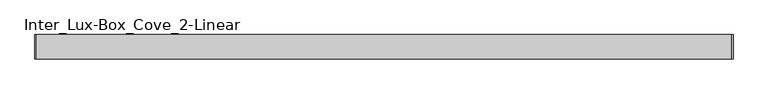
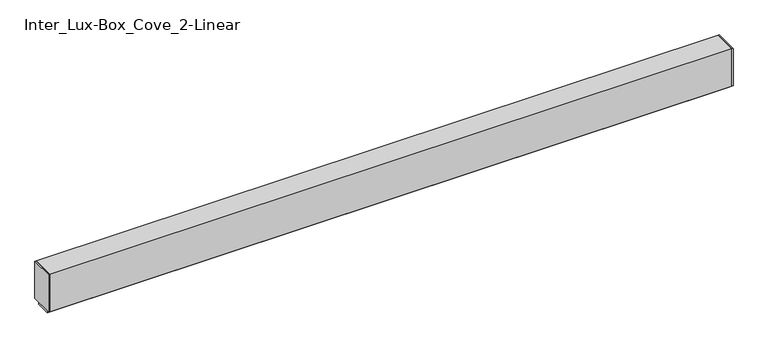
"""IFC4 building model written with IfcOpenShell, lengths in millimetres: light fixture geometry, Inter_Lux-Box_Cove_2-Linear : WG-BC2-72."""

import ifcopenshell
import ifcopenshell.guid

model = None  # the IFC model being written
_history = None  # IfcOwnerHistory: only IFC2X3 demands one
_inside = {}  # id of a spatial element -> (the spatial element, [elements in it])
_under = {}  # id of a project, library or spatial element -> (it, [spatial elements below it])
_declared = {}  # id of a project -> (the project, [libraries it declares])
_typed = {}  # id of a type object -> (the type object, [elements of that type])
_made_of = {}  # id of a material, layer set ... -> (it, [elements and type objects made of it])


def new_model(schema):
    """Start an empty IFC model of exactly this schema.

    Asked for "IFC4X3", IfcOpenShell would pick the latest addendum, in which some entities
    have other attributes; the version numbers below select the first issue.
    IFC2X3 requires an IfcOwnerHistory on every rooted entity: one is made here for all.
    """
    global model, _history
    if schema == "IFC4X3":
        model = ifcopenshell.file(schema_version=(4, 3, 0, 0))
    else:
        model = ifcopenshell.file(schema=schema)
    _inside.clear()
    _under.clear()
    _declared.clear()
    _typed.clear()
    _made_of.clear()
    _history = None
    if model.schema == "IFC2X3":
        org = make("IfcOrganization", Name="unknown")
        user = make(
            "IfcPersonAndOrganization",
            ThePerson=make("IfcPerson", FamilyName="unknown"),
            TheOrganization=org,
        )
        app = make(
            "IfcApplication",
            ApplicationDeveloper=org,
            Version="unknown",
            ApplicationFullName="unknown",
            ApplicationIdentifier="unknown",
        )
        _history = make(
            "IfcOwnerHistory",
            OwningUser=user,
            OwningApplication=app,
            ChangeAction="ADDED",
            CreationDate=0,
        )
    return model


def make(cls, **values):
    """One entity of the class cls with the attributes given. An attribute that is None is left unset."""
    return model.create_entity(
        cls, **{name: value for name, value in values.items() if value is not None}
    )


def rooted(cls, **values):
    """An entity with a GlobalId (a new one), such as an element, a storey or a relation."""
    return make(cls, GlobalId=ifcopenshell.guid.new(), OwnerHistory=_history, **values)


def si_unit(unit_type, name, prefix=None):
    """IfcSIUnit, for example si_unit("LENGTHUNIT", "METRE", prefix="MILLI")."""
    return make("IfcSIUnit", UnitType=unit_type, Prefix=prefix, Name=name)


def assignment(units):
    """IfcUnitAssignment: the units of a project."""
    return None if units is None else make("IfcUnitAssignment", Units=units)


def point(xyz):
    """IfcCartesianPoint."""
    return None if xyz is None else make("IfcCartesianPoint", Coordinates=xyz)


def direction(xyz):
    """IfcDirection."""
    return None if xyz is None else make("IfcDirection", DirectionRatios=xyz)


def frame(location, z_axis=None, x_axis=None):
    """IfcAxis2Placement3D, a coordinate frame: its origin and axes. An axis left out is left unset."""
    return make(
        "IfcAxis2Placement3D",
        Location=point(location),
        Axis=direction(z_axis),
        RefDirection=direction(x_axis),
    )


def origin():
    """The frame at (0, 0, 0) with its axes left unset."""
    return frame((0.0, 0.0, 0.0))


def origin_with_axes():
    """The frame at (0, 0, 0) with the z axis (0, 0, 1) and the x axis (1, 0, 0) written out."""
    return frame((0.0, 0.0, 0.0), z_axis=(0.0, 0.0, 1.0), x_axis=(1.0, 0.0, 0.0))


def place(relative_to, where):
    """IfcLocalPlacement: puts the frame where relative to a parent placement (None: the world)."""
    return make(
        "IfcLocalPlacement", PlacementRelTo=relative_to, RelativePlacement=where
    )


def context(
    kind, dimensions, precision=None, world=None, true_north=None, identifier=None
):
    """IfcGeometricRepresentationContext, for example the 3D "Model" context."""
    return make(
        "IfcGeometricRepresentationContext",
        ContextIdentifier=identifier,
        ContextType=kind,
        CoordinateSpaceDimension=dimensions,
        Precision=precision,
        WorldCoordinateSystem=world,
        TrueNorth=true_north,
    )


def project(units=None, contexts=None):
    """IfcProject with its units and contexts."""
    return rooted(
        "IfcProject",
        Name="project",
        RepresentationContexts=contexts,
        UnitsInContext=assignment(units),
    )


def spatial(cls, under=None, at=None, **own):
    """A site, building, storey or space (cls), placed at a placement, below another one or the project."""
    s = rooted(cls, ObjectPlacement=at, **own)
    if under is not None:
        _under.setdefault(under.id(), (under, []))[1].append(s)
    return s


def polyline(points):
    """IfcPolyline through the points."""
    return make("IfcPolyline", Points=[point(p) for p in points])


def outline(outer, holes=None, kind="AREA"):
    """IfcArbitraryClosedProfileDef: a profile drawn as a closed curve; with holes, ...WithVoids."""
    if holes is None:
        return make("IfcArbitraryClosedProfileDef", ProfileType=kind, OuterCurve=outer)
    return make(
        "IfcArbitraryProfileDefWithVoids",
        ProfileType=kind,
        OuterCurve=outer,
        InnerCurves=holes,
    )


def extrude(swept, where, along, depth):
    """IfcExtrudedAreaSolid: the profile swept, set in the frame where, extruded along a direction by depth."""
    return make(
        "IfcExtrudedAreaSolid",
        SweptArea=swept,
        Position=where,
        ExtrudedDirection=direction(along),
        Depth=depth,
    )


def shape(context_of_items, identifier, shape_type, items):
    """IfcShapeRepresentation: the items that make up one representation, for example the "Body"."""
    return make(
        "IfcShapeRepresentation",
        ContextOfItems=context_of_items,
        RepresentationIdentifier=identifier,
        RepresentationType=shape_type,
        Items=items,
    )


def source(mapping_origin, context_of_items, identifier, shape_type, items):
    """IfcRepresentationMap: a shape defined once, which mapped items show again and again."""
    return make(
        "IfcRepresentationMap",
        MappingOrigin=mapping_origin,
        MappedRepresentation=shape(context_of_items, identifier, shape_type, items),
    )


def transform(
    local_origin,
    x_axis=None,
    y_axis=None,
    z_axis=None,
    scale=None,
    scale2=None,
    scale3=None,
    uniform=True,
):
    """IfcCartesianTransformationOperator3D, or its non-uniform kind. x_axis, y_axis, z_axis: its Axis1, 2, 3."""
    if uniform:
        return make(
            "IfcCartesianTransformationOperator3D",
            Axis1=direction(x_axis),
            Axis2=direction(y_axis),
            LocalOrigin=point(local_origin),
            Scale=scale,
            Axis3=direction(z_axis),
        )
    return make(
        "IfcCartesianTransformationOperator3DnonUniform",
        Axis1=direction(x_axis),
        Axis2=direction(y_axis),
        LocalOrigin=point(local_origin),
        Scale=scale,
        Axis3=direction(z_axis),
        Scale2=scale2,
        Scale3=scale3,
    )


def mapped(mapping_source, mapping_target):
    """IfcMappedItem: shows the shape of a source again, moved by a transform."""
    return make(
        "IfcMappedItem", MappingSource=mapping_source, MappingTarget=mapping_target
    )


def made_of(thing, what):
    """Note that an element or type object is made of a material, layer set ...; save() writes the relation."""
    if what is not None:
        _made_of.setdefault(what.id(), (what, []))[1].append(thing)
    return thing


def element(
    cls,
    number,
    at=None,
    inside=None,
    cuts=None,
    type_object=None,
    material=None,
    context=None,
    identifier="Body",
    shape_type=None,
    held_by="IfcProductDefinitionShape",
    body=None,
    shapes=None,
    **own,
):
    """One element of the class cls, such as IfcWall. Its Tag is "e" and its number.

    at: its placement. inside: the storey or other place that contains it. cuts: it is an
    opening in that element (IfcRelVoidsElement). A single representation is given by context,
    identifier, shape_type and body (its items); several are given by shapes. held_by: the class
    of the entity that holds the representations. save() writes the other relations.
    """
    e = rooted(cls, Tag="e%d" % number, ObjectPlacement=at, **own)
    if body is not None:
        shapes = [shape(context, identifier, shape_type, body)]
    if shapes is not None:
        e.Representation = make(held_by, Representations=shapes)
    if inside is not None:
        _inside.setdefault(inside.id(), (inside, []))[1].append(e)
    if cuts is not None:
        rooted(
            "IfcRelVoidsElement", RelatingBuildingElement=cuts, RelatedOpeningElement=e
        )
    if type_object is not None:
        _typed.setdefault(type_object.id(), (type_object, []))[1].append(e)
    return made_of(e, material)


def aggregate(whole, parts):
    """IfcRelAggregates: a whole, such as a stair, and the parts it consists of."""
    return rooted("IfcRelAggregates", RelatingObject=whole, RelatedObjects=parts)


def save(model, path):
    """Write the relations noted so far, then the file.

    IfcRelAggregates (storeys below a building ...), IfcRelContainedInSpatialStructure (elements
    in a storey), IfcRelDefinesByType, IfcRelAssociatesMaterial and IfcRelDeclares: one each for
    every whole, place, type object, material and project.
    """
    for whole, parts in _under.values():
        aggregate(whole, parts)
    for where, things in _inside.values():
        rooted(
            "IfcRelContainedInSpatialStructure",
            RelatedElements=things,
            RelatingStructure=where,
        )
    for kind, things in _typed.values():
        rooted("IfcRelDefinesByType", RelatedObjects=things, RelatingType=kind)
    for what, things in _made_of.values():
        rooted("IfcRelAssociatesMaterial", RelatedObjects=things, RelatingMaterial=what)
    for by, libraries in _declared.values():
        rooted("IfcRelDeclares", RelatingContext=by, RelatedDefinitions=libraries)
    model.write(path)


def inter_lux_box_cove_2_linear_e77879a3(model_context):
    return source(origin(), model_context, "Body", "SweptSolid", [
        extrude(outline(polyline([(28.5291428, 52.399339), (27.1145076, 53.3286003), (22.7583024, 99.2666021), (24.0177286, 99.9740852), (28.5291428, 52.399339)])), frame((-911.225, 0.0, 0.0), z_axis=(1.0, 0.0, 0.0), x_axis=(0.0, 1.0, 0.0)), (0.0, 0.0, 1.0), 1822.45),
        extrude(outline(polyline([(911.225, 19.05), (911.225, -19.05), (-911.225, -19.05), (-911.225, 19.05), (911.225, 19.05)])), origin_with_axes(), (0.0, 0.0, 1.0), 10.4825619),
        extrude(outline(polyline([(914.4, 31.75), (914.4, -31.75), (911.225, -31.75), (911.225, 31.75), (914.4, 31.75)])), frame((0.0, 0.0, 10.31875), z_axis=(0.0, 0.0, 1.0), x_axis=(1.0, 0.0, 0.0)), (0.0, 0.0, 1.0), 105.3520075),
        extrude(outline(polyline([(29.52626, 51.7443416), (31.75, 13.49375), (30.1583865, 13.49375), (27.929581, 51.1979954), (8.296285, 64.0949328), (8.296285, 76.1922878), (12.3594897, 95.308163), (27.0595865, 103.5654863), (27.0595865, 112.4957575), (28.5835865, 112.4957575), (28.5835865, 102.5389575), (13.8539227, 94.2645637), (9.947285, 75.8852783), (9.947285, 64.605596), (29.52626, 51.7443416)])), frame((-911.225, 0.0, 0.0), z_axis=(1.0, 0.0, 0.0), x_axis=(0.0, 1.0, 0.0)), (0.0, 0.0, 1.0), 1822.45),
        extrude(outline(polyline([(-31.75, 115.6707575), (31.75, 115.6707575), (31.75, 112.4957575), (27.0595865, 112.4957575), (27.0595865, 103.8140045), (23.8845865, 103.8140045), (23.8845865, 112.4957575), (-28.575, 112.4957575), (-28.575, 13.49375), (31.75, 13.49375), (31.75, 10.31875), (-31.75, 10.31875), (-31.75, 115.6707575)])), frame((-911.225, 0.0, 0.0), z_axis=(1.0, 0.0, 0.0), x_axis=(0.0, 1.0, 0.0)), (0.0, 0.0, 1.0), 1822.45),
        extrude(outline(polyline([(-914.4, -31.75), (-914.4, 31.75), (-911.225, 31.75), (-911.225, -31.75), (-914.4, -31.75)])), frame((0.0, 0.0, 10.31875), z_axis=(0.0, 0.0, 1.0), x_axis=(1.0, 0.0, 0.0)), (0.0, 0.0, 1.0), 105.3520075),
    ])


if __name__ == "__main__":
    model = new_model("IFC4")
    model_context = context("Model", 3, world=origin())
    ifc_project = project(units=[si_unit("LENGTHUNIT", "METRE", prefix="MILLI")], contexts=[model_context])
    site = spatial("IfcSite", under=ifc_project)
    building = spatial("IfcBuilding", under=site)
    placement = place(None, origin())
    inter_lux_box_cove_2_linear_shape = inter_lux_box_cove_2_linear_e77879a3(model_context)
    element("IfcLightFixture", 1, ObjectType="Inter_Lux-Box_Cove_2-Linear : WG-BC2-72", at=placement, inside=building, context=model_context, shape_type="MappedRepresentation", body=[
        mapped(inter_lux_box_cove_2_linear_shape, transform((0.0, 0.0, 0.0), x_axis=(1.0, 0.0, 0.0), y_axis=(0.0, 1.0, 0.0), z_axis=(0.0, 0.0, 1.0))),
    ])
    save(model, "model.ifc")
